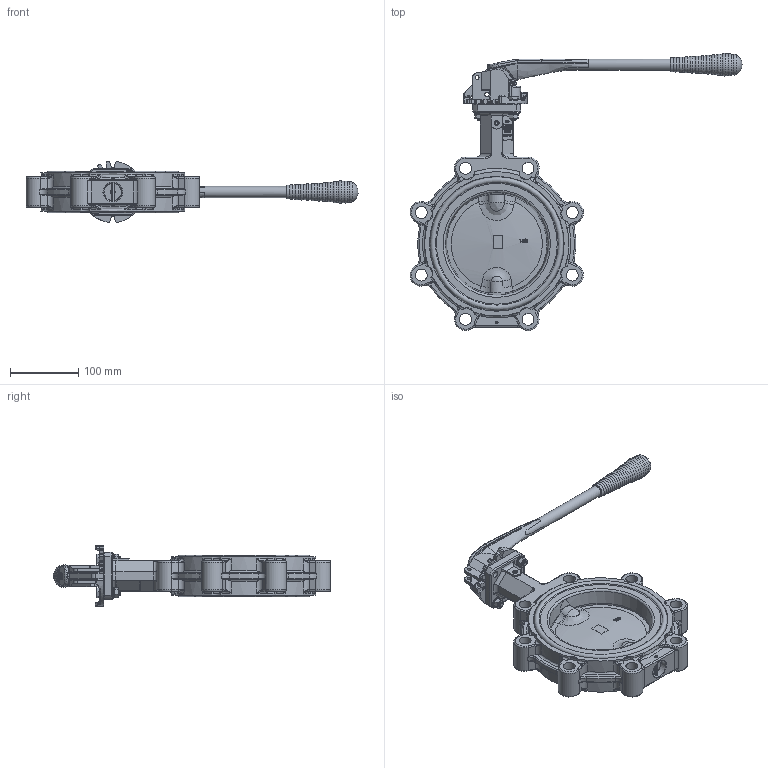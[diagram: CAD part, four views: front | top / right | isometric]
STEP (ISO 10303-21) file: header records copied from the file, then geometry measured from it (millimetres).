
FILE_DESCRIPTION((''),'2;1');
FILE_NAME('K:\Inventor\1 Artikel\10) Absperrklappen\10a) manuell\ABO Valve\894-GGG, 994T\894-GGG, DN150\894-GGG, DN150, 3D\894-GGG, DN150, PN10-16, HH, 3D.stp','2019-08-13T11:44:37',('claudia'),(''),'Autodesk Inventor 2013','Autodesk Inventor 2013','');
FILE_SCHEMA(('AUTOMOTIVE_DESIGN { 1 0 10303 214 1 1 1 1 }'));
Length unit declared in the file: millimetre
Products named in the file (1): Bauteil13
Bounding box: 487.63 x 407.14 x 89.16 mm (x, y, z)
Surface area: 293564.5 mm2
Topology: 7 solids, 8 shells, 2171 faces, 5779 edges, 3650 vertices
Faces by surface type: plane 783, bspline 617, cylinder 425, torus 228, cone 98, sphere 20
Full cylindrical faces by diameter (mm): 5.35 x1, 5.5 x2, 6.3 x2, 6.5 x2, 6.8 x3, 7 x2, 8 x4, 9 x6, 9.5 x1, 13 x2, 16 x2, 16.5 x2, 17.4 x2, 17.5 x9, 20.5 x1, 22 x4, 22.15 x1, 22.5 x1, 25 x2, 27 x1, 29 x1, 32 x1, 34 x1, 56 x1, 196 x1, 198 x2
Entity records: 92776 total; most frequent: CARTESIAN_POINT 43153, ORIENTED_EDGE 11140, DIRECTION 8471, EDGE_CURVE 5572, VERTEX_POINT 3607, AXIS2_PLACEMENT_3D 3070, EDGE_LOOP 2442, VECTOR 2331
